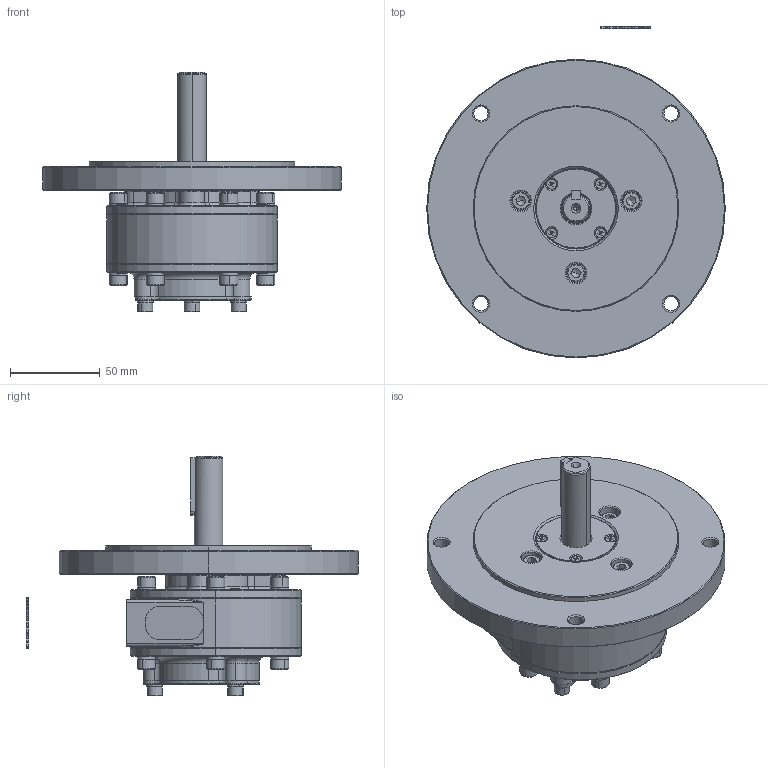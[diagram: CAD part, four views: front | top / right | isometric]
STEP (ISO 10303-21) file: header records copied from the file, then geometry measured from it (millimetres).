
FILE_DESCRIPTION (( 'STEP AP214' ), '1' );
FILE_NAME ('2VMN-SS (Nema).STEP', '2026-04-24T10:54:46', ( '' ), ( '' ), 'SwSTEP 2.0', 'SolidWorks 2017', '' );
FILE_SCHEMA (( 'AUTOMOTIVE_DESIGN' ));
Length unit declared in the file: millimetre
Products named in the file (2): 2VMN-SS (Nema)
Bounding box: 166 x 184.5 x 133.35 mm (x, y, z)
Volume: 419712.4 mm3; surface area: 155072.5 mm2
Topology: 54 solids, 54 shells, 1623 faces, 3869 edges, 2332 vertices
Faces by surface type: plane 648, cylinder 435, cone 384, torus 140, bspline 10, sphere 6
Entity records: 68089 total; most frequent: CARTESIAN_POINT 10346, DIRECTION 8574, ORIENTED_EDGE 7852, EDGE_CURVE 3926, AXIS2_PLACEMENT_3D 3316, VERTEX_POINT 2412, LINE 1942, VECTOR 1942
